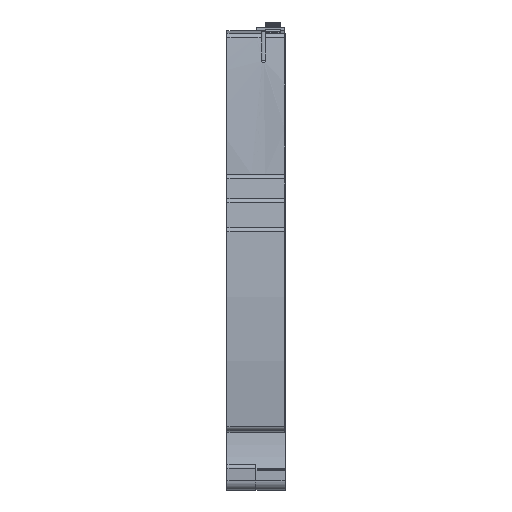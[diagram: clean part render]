
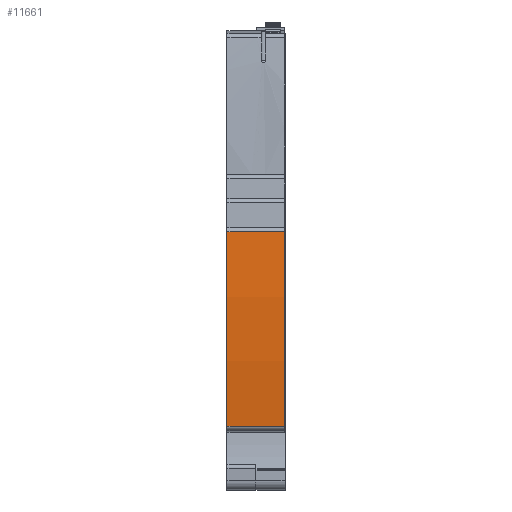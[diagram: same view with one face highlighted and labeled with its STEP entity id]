
A CAD part, front view. The second image highlights one B-rep face of the part: STEP entity #11661.
In plain terms, the highlighted cylindrical face has radius 202 mm (diameter 404 mm), a partial arc.
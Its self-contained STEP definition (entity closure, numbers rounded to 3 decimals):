
#1472=AXIS2_PLACEMENT_3D('Circle Axis2P3D',#1470,#1471,$) ;
#2945=AXIS2_PLACEMENT_3D('Circle Axis2P3D',#2943,#2944,$) ;
#11653=AXIS2_PLACEMENT_3D('Cylinder Axis2P3D',#11650,#11651,#11652) ;
#1467=CARTESIAN_POINT('Vertex',(0.,1.531,13.327)) ;
#1470=CARTESIAN_POINT('Axis2P3D Location',(0.,202.,38.15)) ;
#1474=CARTESIAN_POINT('Vertex',(0.,0.609,53.828)) ;
#2476=CARTESIAN_POINT('Line Origine',(1.94,0.609,53.828)) ;
#2480=CARTESIAN_POINT('Vertex',(12.05,0.609,53.828)) ;
#2943=CARTESIAN_POINT('Axis2P3D Location',(12.05,202.,38.15)) ;
#2947=CARTESIAN_POINT('Vertex',(12.05,1.531,13.327)) ;
#11637=CARTESIAN_POINT('Line Origine',(2.39,1.531,13.327)) ;
#11650=CARTESIAN_POINT('Axis2P3D Location',(2.55,202.,38.15)) ;
#1471=DIRECTION('Axis2P3D Direction',(1.,0.,0.)) ;
#2477=DIRECTION('Vector Direction',(1.,0.,0.)) ;
#2944=DIRECTION('Axis2P3D Direction',(1.,0.,0.)) ;
#11638=DIRECTION('Vector Direction',(1.,0.,0.)) ;
#11651=DIRECTION('Axis2P3D Direction',(1.,0.,0.)) ;
#11652=DIRECTION('Axis2P3D XDirection',(0.,-0.997,0.082)) ;
#2478=VECTOR('Line Direction',#2477,1.) ;
#11639=VECTOR('Line Direction',#11638,1.) ;
#11656=ORIENTED_EDGE('',*,*,#1476,.T.) ;
#11657=ORIENTED_EDGE('',*,*,#11641,.F.) ;
#11658=ORIENTED_EDGE('',*,*,#2949,.F.) ;
#11659=ORIENTED_EDGE('',*,*,#2482,.T.) ;
#11661=ADVANCED_FACE('KLEMME',(#11660),#11654,.T.) ;
#1473=CIRCLE('generated circle',#1472,202.) ;
#2946=CIRCLE('generated circle',#2945,202.) ;
#11654=CYLINDRICAL_SURFACE('generated cylinder',#11653,202.) ;
#1476=EDGE_CURVE('',#1475,#1468,#1473,.T.) ;
#2482=EDGE_CURVE('',#2481,#1475,#2479,.F.) ;
#2949=EDGE_CURVE('',#2481,#2948,#2946,.T.) ;
#11641=EDGE_CURVE('',#2948,#1468,#11640,.F.) ;
#11655=EDGE_LOOP('',(#11656,#11657,#11658,#11659)) ;
#11660=FACE_OUTER_BOUND('',#11655,.T.) ;
#2479=LINE('Line',#2476,#2478) ;
#11640=LINE('Line',#11637,#11639) ;
#1468=VERTEX_POINT('',#1467) ;
#1475=VERTEX_POINT('',#1474) ;
#2481=VERTEX_POINT('',#2480) ;
#2948=VERTEX_POINT('',#2947) ;
